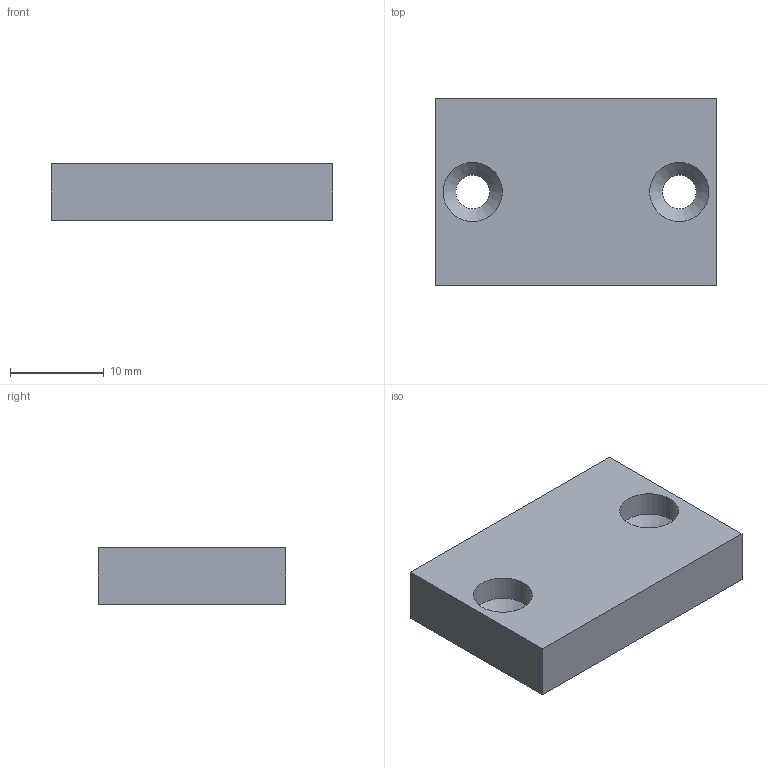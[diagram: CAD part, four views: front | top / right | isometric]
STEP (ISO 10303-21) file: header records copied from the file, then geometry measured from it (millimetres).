
FILE_DESCRIPTION(/* description */ (''),/* implementation_level */ '2;1');
FILE_NAME(/* name */ 'C:\Local Work Area\Progetti\AP\CALIBRI\60.XX PIASTRINE\64.06.stp',/* time_stamp */ '2016-05-06T09:07:51+02:00',/* author */ ('CAD2'),/* organization */ (''),/* preprocessor_version */ 'ST-DEVELOPER v15.2',/* originating_system */ 'Autodesk Inventor 2014',/* authorisation */ '0 mm^3');
FILE_SCHEMA (('CONFIG_CONTROL_DESIGN'));
Length unit declared in the file: millimetre
Products named in the file (1): 64.06
Bounding box: 30 x 20 x 6 mm (x, y, z)
Volume: 3340.8 mm3; surface area: 1926.8 mm2
Topology: 1 solids, 1 shells, 12 faces, 28 edges, 18 vertices
Faces by surface type: plane 6, cylinder 4, cone 2
Full cylindrical faces by diameter (mm): 3.6 x2, 6.3 x2
Entity records: 328 total; most frequent: DIRECTION 54, CARTESIAN_POINT 49, ORIENTED_EDGE 40, EDGE_LOOP 22, AXIS2_PLACEMENT_3D 21, EDGE_CURVE 20, VERTEX_POINT 16, LINE 12
